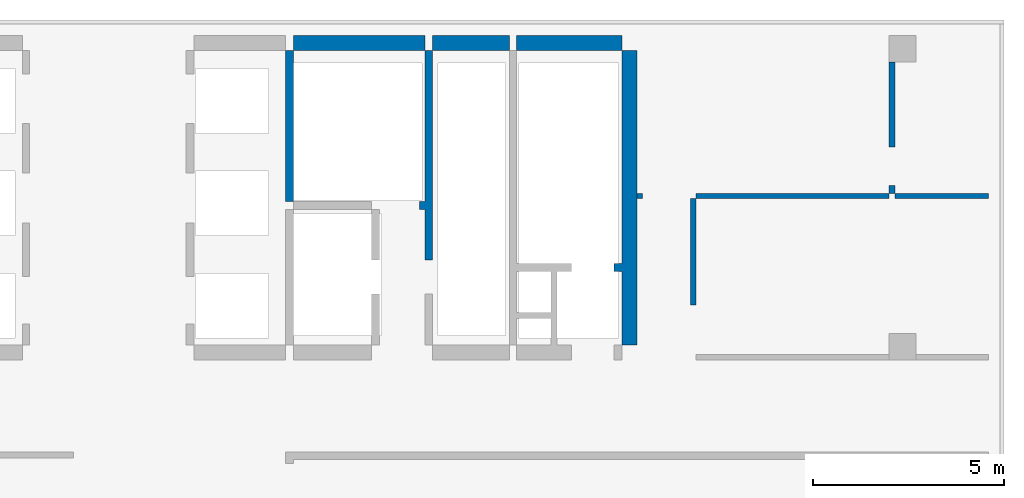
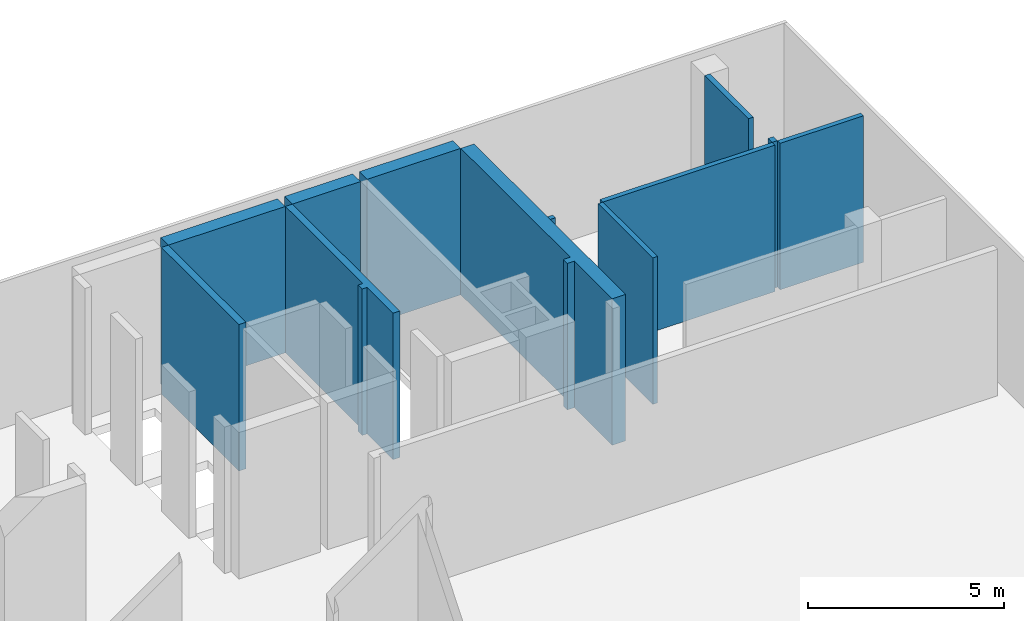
# One storey, part 3 of 4: 12 walls.
"""IFC4 building model written with IfcOpenShell, lengths in millimetres."""

from ifc_helpers import new_model, si_unit, frame, origin, place, context, project, spatial, triangles, element, save


model = new_model("IFC4")

# Units and contexts
model_context = context("Model", 3, precision=0.001, world=origin())
ifc_project = project(units=[si_unit("LENGTHUNIT", "METRE", prefix="MILLI"), si_unit("AREAUNIT", "SQUARE_METRE"), si_unit("VOLUMEUNIT", "CUBIC_METRE")], contexts=[model_context])

# Site, building, storey
site_placement = place(None, origin())
site = spatial("IfcSite", under=ifc_project, at=site_placement, Name="Site", CompositionType="ELEMENT")
building_placement = place(site_placement, origin())
building = spatial("IfcBuilding", under=site, at=building_placement, Name="INNOCEAN", CompositionType="ELEMENT")
storey_placement = place(building_placement, frame((0.0, 0.0, 15800.0)))
storey = spatial("IfcBuildingStorey", under=building, at=storey_placement, Name="F04", CompositionType="ELEMENT", Elevation=15800.0)

# Walls
wall_1_placement = place(storey_placement, origin())
element("IfcWall", 1, at=wall_1_placement, inside=storey, Name="F04_Walls_F04_071", context=model_context, shape_type="Tessellation", body=[
    triangles([(35469.1, 19551.5, 0.0), (35469.1, 20872.5, 0.0), (35469.1, 20872.5, 4550.0), (35469.1, 19551.5, 4550.0), (35266.0, 19551.5, 0.0), (35266.0, 19551.5, 4550.0), (35266.0, 20872.5, 0.0), (35266.0, 20872.5, 4550.0), (35126.4, 20872.5, 0.0), (35126.4, 20872.5, 4550.0), (35126.4, 21075.7, 0.0), (35126.4, 21075.7, 4550.0), (35266.0, 21075.7, 0.0), (35266.0, 21075.7, 4550.0), (35266.0, 25025.8, 0.0), (35266.0, 25025.8, 4550.0), (35469.1, 25025.8, 0.0), (35469.1, 25025.8, 4550.0), (35469.1, 21075.7, 0.0), (35469.1, 21075.7, 4550.0)], [[1, 2, 3], [1, 3, 4], [5, 1, 4], [5, 4, 6], [7, 5, 6], [7, 6, 8], [9, 7, 8], [9, 8, 10], [11, 9, 10], [11, 10, 12], [13, 11, 12], [13, 12, 14], [15, 13, 14], [15, 14, 16], [17, 15, 16], [17, 16, 18], [19, 17, 18], [19, 18, 20], [2, 19, 20], [2, 20, 3], [7, 2, 1], [7, 1, 5], [19, 2, 7], [13, 19, 7], [11, 7, 9], [11, 13, 7], [15, 17, 19], [15, 19, 13], [3, 8, 4], [4, 8, 6], [3, 20, 8], [20, 14, 8], [8, 12, 10], [14, 12, 8], [18, 16, 20], [20, 16, 14]], closed=True),
])
wall_2_placement = place(storey_placement, origin())
element("IfcWall", 2, at=wall_2_placement, inside=storey, Name="F04_Walls_F04_073", context=model_context, shape_type="Tessellation", body=[
    triangles([(31623.1, 21075.7, 0.0), (31826.2, 21075.7, 0.0), (31826.2, 21075.7, 4550.0), (31623.1, 21075.7, 4550.0), (31623.1, 25025.8, 0.0), (31623.1, 25025.8, 4550.0), (31826.2, 25025.8, 0.0), (31826.2, 25025.8, 4550.0)], [[1, 2, 3], [1, 3, 4], [5, 1, 4], [5, 4, 6], [7, 5, 6], [7, 6, 8], [2, 7, 8], [2, 8, 3], [7, 2, 1], [5, 7, 1], [3, 8, 4], [8, 6, 4]], closed=True),
])
wall_3_placement = place(storey_placement, origin())
element("IfcWall", 3, at=wall_3_placement, inside=storey, Name="F04_Walls_F04_076", context=model_context, shape_type="Tessellation", body=[
    triangles([(35266.0, 25025.8, 0.0), (35266.0, 25419.5, 0.0), (35266.0, 25419.5, 4550.0), (35266.0, 25025.8, 4550.0), (31826.2, 25025.8, 0.0), (31826.2, 25025.8, 4550.0), (31826.2, 25419.5, 0.0), (31826.2, 25419.5, 4550.0)], [[1, 2, 3], [1, 3, 4], [5, 1, 4], [5, 4, 6], [7, 5, 6], [7, 6, 8], [2, 7, 8], [2, 8, 3], [7, 2, 1], [7, 1, 5], [3, 8, 4], [4, 8, 6]], closed=True),
])
wall_4_placement = place(storey_placement, origin())
element("IfcWall", 4, at=wall_4_placement, inside=storey, Name="F04_Walls_F04_083", context=model_context, shape_type="Tessellation", body=[
    triangles([(40419.5, 19450.0, 0.0), (40215.0, 19450.0, 0.0), (40215.0, 19450.0, 4550.0), (40419.5, 19450.0, 4550.0), (40419.5, 25025.8, 0.0), (40419.5, 25025.8, 4550.0), (40813.0, 25025.8, 0.0), (40813.0, 25025.8, 4550.0), (40813.0, 19449.9, 4550.0), (40813.0, 19449.9, 0.0), (40813.0, 17316.1, 0.0), (40813.0, 17316.1, 4550.0), (40419.5, 17316.1, 0.0), (40419.5, 17316.1, 4550.0), (40419.5, 19245.0, 0.0), (40419.5, 19245.0, 4550.0), (40215.0, 19245.0, 0.0), (40215.0, 19245.0, 4550.0)], [[1, 2, 3], [1, 3, 4], [5, 1, 4], [5, 4, 6], [7, 5, 6], [7, 6, 8], [9, 7, 8], [10, 7, 9], [11, 10, 9], [11, 9, 12], [13, 11, 12], [13, 12, 14], [15, 13, 14], [15, 14, 16], [17, 15, 16], [17, 16, 18], [2, 17, 18], [2, 18, 3], [15, 10, 11], [15, 11, 13], [1, 10, 15], [2, 15, 17], [2, 1, 15], [7, 10, 1], [5, 7, 1], [9, 16, 12], [12, 16, 14], [9, 4, 16], [16, 3, 18], [4, 3, 16], [9, 8, 4], [8, 6, 4]], closed=True),
])
wall_5_placement = place(storey_placement, origin())
element("IfcWall", 5, at=wall_5_placement, inside=storey, Name="F04_Walls_F04_084", context=model_context, shape_type="Tessellation", body=[
    triangles([(42361.5, 21151.9, 0.0), (42361.5, 21151.9, 4550.0), (42361.5, 18370.3, 4550.0), (42361.5, 18370.3, 0.0), (42221.9, 18370.3, 0.0), (42221.9, 18370.3, 4550.0), (42221.9, 21151.9, 4550.0), (42221.9, 21151.9, 0.0)], [[1, 2, 3], [4, 1, 3], [5, 4, 3], [5, 3, 6], [5, 6, 7], [8, 5, 7], [1, 8, 7], [1, 7, 2], [8, 1, 4], [8, 4, 5], [2, 7, 3], [3, 7, 6]], closed=True),
])
wall_6_placement = place(storey_placement, origin())
element("IfcWall", 6, at=wall_6_placement, inside=storey, Name="F04_Walls_F04_085", context=model_context, shape_type="Tessellation", body=[
    triangles([(40965.0, 21150.0, 0.0), (40965.0, 21290.0, 0.0), (40965.0, 21290.0, 4550.0), (40965.0, 21150.0, 4550.0), (40815.0, 21150.0, 0.0), (40815.0, 21150.0, 4550.0), (40815.0, 21290.0, 0.0), (40815.0, 21290.0, 4550.0)], [[1, 2, 3], [1, 3, 4], [5, 1, 4], [5, 4, 6], [7, 5, 6], [7, 6, 8], [2, 7, 8], [2, 8, 3], [7, 2, 1], [7, 1, 5], [3, 8, 4], [4, 8, 6]], closed=True),
])
wall_7_placement = place(storey_placement, origin())
element("IfcWall", 7, at=wall_7_placement, inside=storey, Name="F04_Walls_F04_086", context=model_context, shape_type="Tessellation", body=[
    triangles([(47413.4, 21151.9, 0.0), (47413.4, 21291.6, 0.0), (47413.4, 21291.6, 4550.0), (47413.4, 21151.9, 4550.0), (42361.5, 21151.9, 0.0), (42361.5, 21151.9, 4550.0), (42361.5, 21291.6, 0.0), (42361.5, 21291.6, 4550.0)], [[1, 2, 3], [1, 3, 4], [5, 1, 4], [5, 4, 6], [7, 5, 6], [7, 6, 8], [2, 7, 8], [2, 8, 3], [5, 2, 1], [7, 2, 5], [3, 6, 4], [3, 8, 6]], closed=True),
])
wall_8_placement = place(storey_placement, origin())
element("IfcWall", 8, at=wall_8_placement, inside=storey, Name="F04_Walls_F04_087", context=model_context, shape_type="Tessellation", body=[
    triangles([(47565.8, 21291.6, 0.0), (47565.8, 21151.9, 0.0), (47565.8, 21151.9, 4550.0), (47565.8, 21291.6, 4550.0), (50015.5, 21291.6, 0.0), (50015.5, 21291.6, 4550.0), (50015.5, 21151.9, 0.0), (50015.5, 21151.9, 4550.0)], [[1, 2, 3], [1, 3, 4], [5, 1, 4], [5, 4, 6], [7, 5, 6], [7, 6, 8], [2, 7, 8], [2, 8, 3], [1, 5, 7], [1, 7, 2], [6, 4, 8], [8, 4, 3]], closed=True),
])
wall_9_placement = place(storey_placement, origin())
element("IfcWall", 9, at=wall_9_placement, inside=storey, Name="F04_Walls_F04_088", context=model_context, shape_type="Tessellation", body=[
    triangles([(47565.8, 21291.6, 0.0), (47565.8, 21494.8, 0.0), (47565.8, 21494.8, 4550.0), (47565.8, 21291.6, 4550.0), (47413.4, 21291.6, 0.0), (47413.4, 21291.6, 4550.0), (47413.4, 21494.8, 0.0), (47413.4, 21494.8, 4550.0)], [[1, 2, 3], [1, 3, 4], [5, 1, 4], [5, 4, 6], [7, 5, 6], [7, 6, 8], [2, 7, 8], [2, 8, 3], [2, 1, 5], [7, 2, 5], [4, 3, 6], [3, 8, 6]], closed=True),
])
wall_10_placement = place(storey_placement, origin())
element("IfcWall", 10, at=wall_10_placement, inside=storey, Name="F04_Walls_F04_089", context=model_context, shape_type="Tessellation", body=[
    triangles([(47565.8, 22498.2, 0.0), (47565.8, 24721.0, 0.0), (47565.8, 24721.0, 4550.0), (47565.8, 22498.2, 4550.0), (47413.4, 22498.2, 0.0), (47413.4, 22498.2, 4550.0), (47413.4, 24721.0, 0.0), (47413.4, 24721.0, 4550.0)], [[1, 2, 3], [1, 3, 4], [5, 1, 4], [5, 4, 6], [7, 5, 6], [7, 6, 8], [2, 7, 8], [2, 8, 3], [7, 2, 1], [7, 1, 5], [3, 8, 4], [4, 8, 6]], closed=True),
])
wall_11_placement = place(storey_placement, origin())
element("IfcWall", 11, at=wall_11_placement, inside=storey, Name="F04_Walls_F04_090", context=model_context, shape_type="Tessellation", body=[
    triangles([(37474.6, 25025.8, 0.0), (37474.6, 25025.8, 4550.0), (35469.1, 25025.8, 4550.0), (35469.1, 25025.8, 0.0), (35469.1, 25419.5, 0.0), (35469.1, 25419.5, 4550.0), (37474.6, 25419.5, 4550.0), (37474.6, 25419.5, 0.0)], [[1, 2, 3], [4, 1, 3], [5, 4, 3], [5, 3, 6], [5, 6, 7], [8, 5, 7], [1, 8, 7], [1, 7, 2], [5, 1, 4], [5, 8, 1], [2, 6, 3], [7, 6, 2]], closed=True),
])
wall_12_placement = place(storey_placement, origin())
element("IfcWall", 12, at=wall_12_placement, inside=storey, Name="F04_Walls_F04_091", context=model_context, shape_type="Tessellation", body=[
    triangles([(37665.0, 25025.8, 0.0), (40419.5, 25025.8, 0.0), (40419.5, 25025.8, 4550.0), (37665.0, 25025.8, 4550.0), (37665.0, 25419.5, 0.0), (37665.0, 25419.5, 4550.0), (40419.5, 25419.5, 0.0), (40419.5, 25419.5, 4550.0)], [[1, 2, 3], [1, 3, 4], [5, 1, 4], [5, 4, 6], [7, 5, 6], [7, 6, 8], [2, 7, 8], [2, 8, 3], [5, 2, 1], [5, 7, 2], [3, 6, 4], [8, 6, 3]], closed=True),
])

save(model, "model.ifc")
